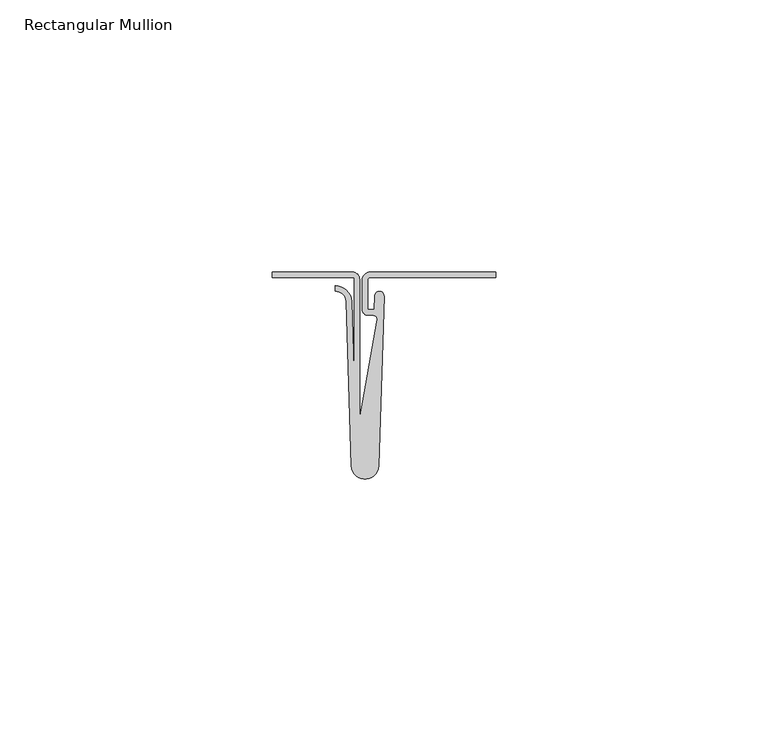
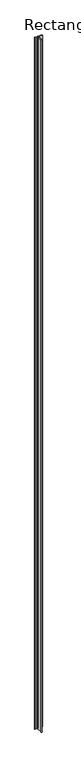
"""IFC4 building model written with IfcOpenShell, lengths in millimetres: member geometry, Rectangular Mullion : Stratco_Hiland_Tray Snaplock_38mm Rib_Underlap Tray Starter."""

from ifc_helpers import new_model, si_unit, point, frame, frame_2d, origin, place, context, project, spatial, polyline, circle_curve, trimmed, segment, composite_curve, outline, extrude, source, transform, mapped, element, save


def rectangular_mullion_fc24dad9(model_context):
    return source(origin(), model_context, "Body", "SweptSolid", [
        extrude(outline(composite_curve([segment(polyline([(-23.4987771, -6.8829629), (-22.2697109, -6.8829629), (-22.1929008, -4.3462781)]), True, "CONTINUOUS"), segment(trimmed(circle_curve(frame_2d((-21.3413568, -4.3720626)), 0.8519342), [point((-22.1929008, -4.3462781))], [point((-20.4898618, -4.3994153))], False, "CARTESIAN"), True, "CONTINUOUS"), segment(polyline([(-20.4898618, -4.3994153), (-21.4929799, -35.626652)]), True, "CONTINUOUS"), segment(trimmed(circle_curve(frame_2d((-24.0016605, -35.4875132)), 2.5125361), [point((-21.4929799, -35.626652))], [point((-26.5103411, -35.626652))], False, "CARTESIAN"), True, "CONTINUOUS"), segment(polyline([(-26.5103411, -35.626652), (-27.4660425, -5.3953045)]), True, "CONTINUOUS"), segment(trimmed(circle_curve(frame_2d((-29.4633003, -5.5)), 2.0), [point((-27.4660425, -5.3953045))], [point((-29.4633003, -3.5))], True, "CARTESIAN"), True, "CONTINUOUS"), segment(polyline([(-29.4633003, -3.5), (-29.4633003, -2.5)]), True, "CONTINUOUS"), segment(trimmed(circle_curve(frame_2d((-29.4633003, -5.5)), 3.0), [point((-29.4633003, -2.5))], [point((-26.4668368, -5.3543763))], False, "CARTESIAN"), True, "CONTINUOUS"), segment(polyline([(-26.4668368, -5.3543763), (-25.9762329, -20.8734664), (-25.9762329, -0.9999512), (-41.0016605, -0.9999512), (-41.0016605, 4.88e-05), (-26.303797, 4.88e-05)]), True, "CONTINUOUS"), segment(trimmed(circle_curve(frame_2d((-26.303797, -1.3275108)), 1.3275596), [point((-26.303797, 4.88e-05))], [point((-24.9762373, -1.3275288))], False, "CARTESIAN"), True, "CONTINUOUS"), segment(polyline([(-24.9762373, -1.3275288), (-24.9764076, -26.8708983), (-21.8636662, -9.1419522)]), True, "CONTINUOUS"), segment(trimmed(circle_curve(frame_2d((-22.52688, -8.705404)), 0.7939942), [point((-21.8636662, -9.1419522))], [point((-22.52688, -7.9114098))], True, "CARTESIAN"), True, "CONTINUOUS"), segment(polyline([(-22.52688, -7.9114098), (-23.4435917, -7.9114098)]), True, "CONTINUOUS"), segment(trimmed(circle_curve(frame_2d((-23.4435917, -6.8533411)), 1.0580688), [point((-23.4435917, -7.9114098))], [point((-24.4989611, -6.9288725))], False, "CARTESIAN"), True, "CONTINUOUS"), segment(polyline([(-24.4989611, -6.9288725), (-24.4989611, -1.4973006)]), True, "CONTINUOUS"), segment(trimmed(circle_curve(frame_2d((-23.0016605, -1.4973006)), 1.4973006), [point((-24.4989611, -1.4973006))], [point((-23.0016605, 0.0))], False, "CARTESIAN"), True, "CONTINUOUS"), segment(polyline([(-23.0016605, 0.0), (0.0, 0.0), (0.0, -1.0000001), (-23.0016605, -1.0000001)]), True, "CONTINUOUS"), segment(trimmed(circle_curve(frame_2d((-23.0016605, -1.4971168)), 0.4971167), [point((-23.0016605, -1.0000001))], [point((-23.4987771, -1.4971168))], True, "CARTESIAN"), True, "CONTINUOUS"), segment(polyline([(-23.4987771, -1.4971168), (-23.4987771, -6.8829629)]), True, "CONTINUOUS")], self_intersect=False)), frame((0.0, 0.0, -4000.0), z_axis=(0.0, 0.0, 1.0), x_axis=(1.0, 0.0, 0.0)), (0.0, 0.0, 1.0), 4000.0),
    ])


if __name__ == "__main__":
    model = new_model("IFC4")
    model_context = context("Model", 3, world=origin())
    ifc_project = project(units=[si_unit("LENGTHUNIT", "METRE", prefix="MILLI")], contexts=[model_context])
    site = spatial("IfcSite", under=ifc_project)
    building = spatial("IfcBuilding", under=site)
    placement = place(None, origin())
    rectangular_mullion_shape = rectangular_mullion_fc24dad9(model_context)
    element("IfcMember", 1, ObjectType="Rectangular Mullion : Stratco_Hiland_Tray Snaplock_38mm Rib_Underlap Tray Starter", at=placement, inside=building, context=model_context, shape_type="MappedRepresentation", body=[
        mapped(rectangular_mullion_shape, transform((0.0, 0.0, 0.0), x_axis=(1.0, 0.0, 0.0), y_axis=(0.0, 1.0, 0.0), z_axis=(0.0, 0.0, 1.0))),
    ])
    save(model, "model.ifc")
